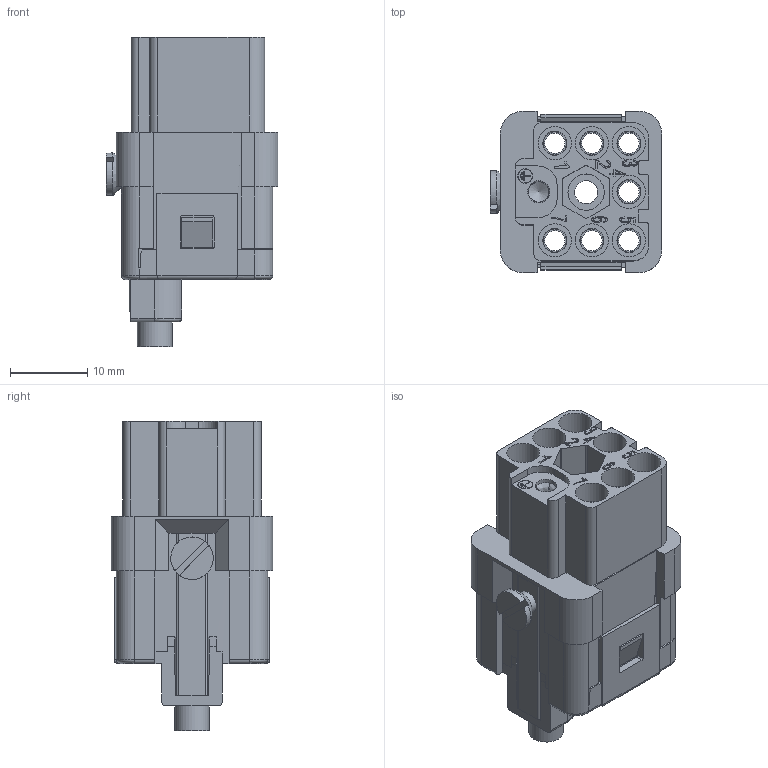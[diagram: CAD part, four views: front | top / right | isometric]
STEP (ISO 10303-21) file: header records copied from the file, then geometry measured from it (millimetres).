
FILE_DESCRIPTION(/* description */ (''),/* implementation_level */ '2;1');
FILE_NAME(/* name */ 'HQ-007-F.stp',/* time_stamp */ '2023-07-05T10:37:08+08:00',/* author */ (''),/* organization */ (''),/* preprocessor_version */ 'ST-DEVELOPER v16.7',/* originating_system */ 'SIEMENS PLM Software NX 12.0',/* authorisation */ '');
FILE_SCHEMA (('AUTOMOTIVE_DESIGN { 1 0 10303 214 3 1 1 1 }'));
Length unit declared in the file: millimetre
Products named in the file (1): 09120073101_100221320MOD000D_stp
Bounding box: 22.27 x 20.95 x 40.11 mm (x, y, z)
Volume: 7643.8 mm3; surface area: 7458.4 mm2
Topology: 1 solids, 1 shells, 463 faces, 1195 edges, 777 vertices
Faces by surface type: plane 276, cylinder 114, cone 42, extrusion 18, bspline 13
Full cylindrical faces by diameter (mm): 1.8 x1, 1.921 x1, 2.62 x7, 2.85 x1, 3 x2, 3.67 x7, 4.3 x14, 4.4 x1, 4.5 x1, 4.7 x1, 4.85 x1
Entity records: 18214 total; most frequent: CARTESIAN_POINT 3940, ORIENTED_EDGE 2246, DIRECTION 2173, EDGE_CURVE 1123, VERTEX_POINT 773, AXIS2_PLACEMENT_3D 733, VECTOR 707, LINE 689
